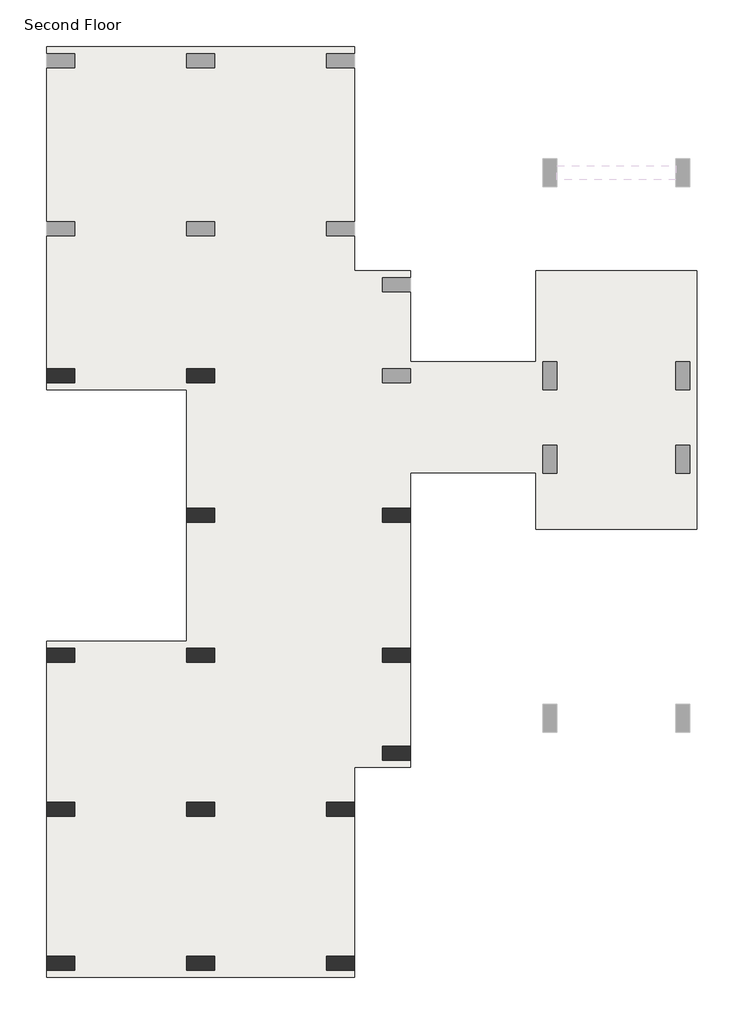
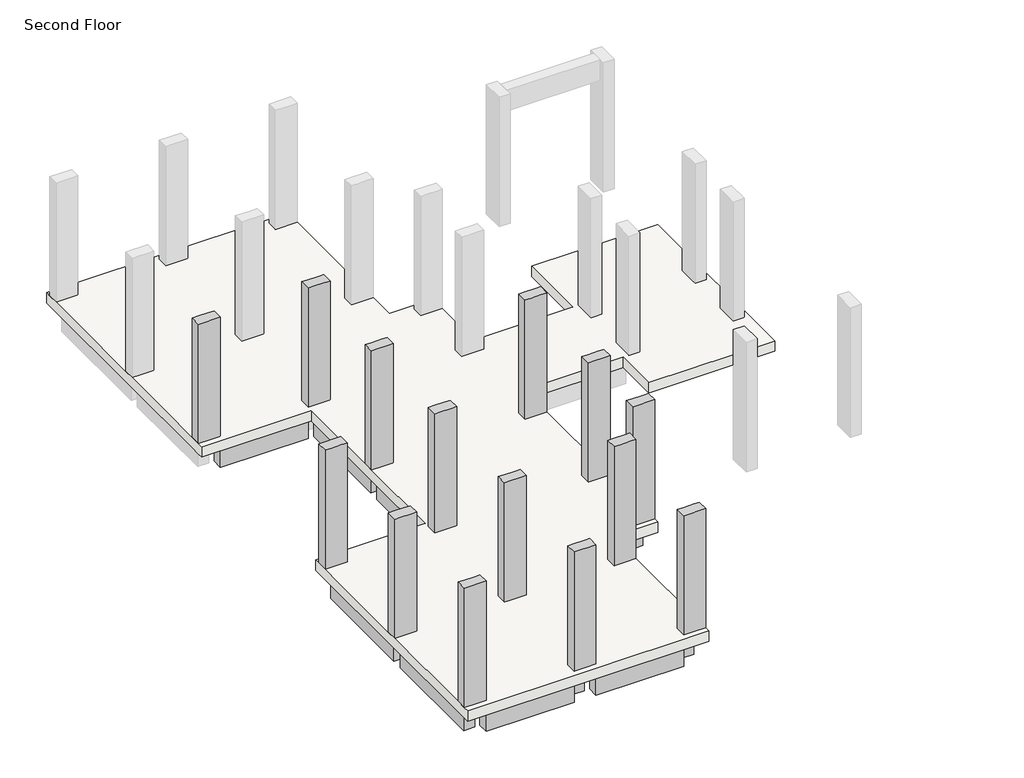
# One storey, part 1 of 2: 21 beams, 15 columns, 1 slab.
"""IFC4 building model written with IfcOpenShell, lengths in millimetres."""

import ifcopenshell
import ifcopenshell.guid

model = None  # the IFC model being written
_history = None  # IfcOwnerHistory: only IFC2X3 demands one
_inside = {}  # id of a spatial element -> (the spatial element, [elements in it])
_under = {}  # id of a project, library or spatial element -> (it, [spatial elements below it])
_declared = {}  # id of a project -> (the project, [libraries it declares])
_typed = {}  # id of a type object -> (the type object, [elements of that type])
_made_of = {}  # id of a material, layer set ... -> (it, [elements and type objects made of it])


def new_model(schema):
    """Start an empty IFC model of exactly this schema.

    Asked for "IFC4X3", IfcOpenShell would pick the latest addendum, in which some entities
    have other attributes; the version numbers below select the first issue.
    IFC2X3 requires an IfcOwnerHistory on every rooted entity: one is made here for all.
    """
    global model, _history
    if schema == "IFC4X3":
        model = ifcopenshell.file(schema_version=(4, 3, 0, 0))
    else:
        model = ifcopenshell.file(schema=schema)
    _inside.clear()
    _under.clear()
    _declared.clear()
    _typed.clear()
    _made_of.clear()
    _history = None
    if model.schema == "IFC2X3":
        org = make("IfcOrganization", Name="unknown")
        user = make(
            "IfcPersonAndOrganization",
            ThePerson=make("IfcPerson", FamilyName="unknown"),
            TheOrganization=org,
        )
        app = make(
            "IfcApplication",
            ApplicationDeveloper=org,
            Version="unknown",
            ApplicationFullName="unknown",
            ApplicationIdentifier="unknown",
        )
        _history = make(
            "IfcOwnerHistory",
            OwningUser=user,
            OwningApplication=app,
            ChangeAction="ADDED",
            CreationDate=0,
        )
    return model


def make(cls, **values):
    """One entity of the class cls with the attributes given. An attribute that is None is left unset."""
    return model.create_entity(
        cls, **{name: value for name, value in values.items() if value is not None}
    )


def rooted(cls, **values):
    """An entity with a GlobalId (a new one), such as an element, a storey or a relation."""
    return make(cls, GlobalId=ifcopenshell.guid.new(), OwnerHistory=_history, **values)


def si_unit(unit_type, name, prefix=None):
    """IfcSIUnit, for example si_unit("LENGTHUNIT", "METRE", prefix="MILLI")."""
    return make("IfcSIUnit", UnitType=unit_type, Prefix=prefix, Name=name)


def assignment(units):
    """IfcUnitAssignment: the units of a project."""
    return None if units is None else make("IfcUnitAssignment", Units=units)


def point(xyz):
    """IfcCartesianPoint."""
    return None if xyz is None else make("IfcCartesianPoint", Coordinates=xyz)


def direction(xyz):
    """IfcDirection."""
    return None if xyz is None else make("IfcDirection", DirectionRatios=xyz)


def frame(location, z_axis=None, x_axis=None):
    """IfcAxis2Placement3D, a coordinate frame: its origin and axes. An axis left out is left unset."""
    return make(
        "IfcAxis2Placement3D",
        Location=point(location),
        Axis=direction(z_axis),
        RefDirection=direction(x_axis),
    )


def origin():
    """The frame at (0, 0, 0) with its axes left unset."""
    return frame((0.0, 0.0, 0.0))


def place(relative_to, where):
    """IfcLocalPlacement: puts the frame where relative to a parent placement (None: the world)."""
    return make(
        "IfcLocalPlacement", PlacementRelTo=relative_to, RelativePlacement=where
    )


def context(
    kind, dimensions, precision=None, world=None, true_north=None, identifier=None
):
    """IfcGeometricRepresentationContext, for example the 3D "Model" context."""
    return make(
        "IfcGeometricRepresentationContext",
        ContextIdentifier=identifier,
        ContextType=kind,
        CoordinateSpaceDimension=dimensions,
        Precision=precision,
        WorldCoordinateSystem=world,
        TrueNorth=true_north,
    )


def project(units=None, contexts=None):
    """IfcProject with its units and contexts."""
    return rooted(
        "IfcProject",
        Name="project",
        RepresentationContexts=contexts,
        UnitsInContext=assignment(units),
    )


def spatial(cls, under=None, at=None, **own):
    """A site, building, storey or space (cls), placed at a placement, below another one or the project."""
    s = rooted(cls, ObjectPlacement=at, **own)
    if under is not None:
        _under.setdefault(under.id(), (under, []))[1].append(s)
    return s


def polyline(points):
    """IfcPolyline through the points."""
    return make("IfcPolyline", Points=[point(p) for p in points])


def outline(outer, holes=None, kind="AREA"):
    """IfcArbitraryClosedProfileDef: a profile drawn as a closed curve; with holes, ...WithVoids."""
    if holes is None:
        return make("IfcArbitraryClosedProfileDef", ProfileType=kind, OuterCurve=outer)
    return make(
        "IfcArbitraryProfileDefWithVoids",
        ProfileType=kind,
        OuterCurve=outer,
        InnerCurves=holes,
    )


def extrude(swept, where, along, depth):
    """IfcExtrudedAreaSolid: the profile swept, set in the frame where, extruded along a direction by depth."""
    return make(
        "IfcExtrudedAreaSolid",
        SweptArea=swept,
        Position=where,
        ExtrudedDirection=direction(along),
        Depth=depth,
    )


def faces_of(points, faces, orient=None, outer=None):
    """IfcFace entities. A face is a list of loops; a loop is a list of indices into points, from 0.

    orient and outer hold one flag for each loop. By default every Orientation is true, the
    first loop of a face is its IfcFaceOuterBound and the others are IfcFaceBound.
    """
    made = []
    for i, loops in enumerate(faces):
        bounds = []
        for j, loop in enumerate(loops):
            is_outer = j == 0 if outer is None else outer[i][j]
            bounds.append(
                make(
                    "IfcFaceOuterBound" if is_outer else "IfcFaceBound",
                    Bound=make("IfcPolyLoop", Polygon=[points[k] for k in loop]),
                    Orientation=True if orient is None else orient[i][j],
                )
            )
        made.append(make("IfcFace", Bounds=bounds))
    return made


def faceted_brep(points, faces, orient=None, outer=None, voids=None):
    """IfcFacetedBrep: a solid bounded by flat faces; with voids (closed shells), ...WithVoids."""
    shared = [point(p) for p in points]
    hull = make("IfcClosedShell", CfsFaces=faces_of(shared, faces, orient, outer))
    if voids is None:
        return make("IfcFacetedBrep", Outer=hull)
    return make(
        "IfcFacetedBrepWithVoids",
        Outer=hull,
        Voids=[
            make(cls, CfsFaces=faces_of(shared, fs, o, b)) for cls, fs, o, b in voids
        ],
    )


def shape(context_of_items, identifier, shape_type, items):
    """IfcShapeRepresentation: the items that make up one representation, for example the "Body"."""
    return make(
        "IfcShapeRepresentation",
        ContextOfItems=context_of_items,
        RepresentationIdentifier=identifier,
        RepresentationType=shape_type,
        Items=items,
    )


def made_of(thing, what):
    """Note that an element or type object is made of a material, layer set ...; save() writes the relation."""
    if what is not None:
        _made_of.setdefault(what.id(), (what, []))[1].append(thing)
    return thing


def element(
    cls,
    number,
    at=None,
    inside=None,
    cuts=None,
    type_object=None,
    material=None,
    context=None,
    identifier="Body",
    shape_type=None,
    held_by="IfcProductDefinitionShape",
    body=None,
    shapes=None,
    **own,
):
    """One element of the class cls, such as IfcWall. Its Tag is "e" and its number.

    at: its placement. inside: the storey or other place that contains it. cuts: it is an
    opening in that element (IfcRelVoidsElement). A single representation is given by context,
    identifier, shape_type and body (its items); several are given by shapes. held_by: the class
    of the entity that holds the representations. save() writes the other relations.
    """
    e = rooted(cls, Tag="e%d" % number, ObjectPlacement=at, **own)
    if body is not None:
        shapes = [shape(context, identifier, shape_type, body)]
    if shapes is not None:
        e.Representation = make(held_by, Representations=shapes)
    if inside is not None:
        _inside.setdefault(inside.id(), (inside, []))[1].append(e)
    if cuts is not None:
        rooted(
            "IfcRelVoidsElement", RelatingBuildingElement=cuts, RelatedOpeningElement=e
        )
    if type_object is not None:
        _typed.setdefault(type_object.id(), (type_object, []))[1].append(e)
    return made_of(e, material)


def aggregate(whole, parts):
    """IfcRelAggregates: a whole, such as a stair, and the parts it consists of."""
    return rooted("IfcRelAggregates", RelatingObject=whole, RelatedObjects=parts)


def save(model, path):
    """Write the relations noted so far, then the file.

    IfcRelAggregates (storeys below a building ...), IfcRelContainedInSpatialStructure (elements
    in a storey), IfcRelDefinesByType, IfcRelAssociatesMaterial and IfcRelDeclares: one each for
    every whole, place, type object, material and project.
    """
    for whole, parts in _under.values():
        aggregate(whole, parts)
    for where, things in _inside.values():
        rooted(
            "IfcRelContainedInSpatialStructure",
            RelatedElements=things,
            RelatingStructure=where,
        )
    for kind, things in _typed.values():
        rooted("IfcRelDefinesByType", RelatedObjects=things, RelatingType=kind)
    for what, things in _made_of.values():
        rooted("IfcRelAssociatesMaterial", RelatedObjects=things, RelatingMaterial=what)
    for by, libraries in _declared.values():
        rooted("IfcRelDeclares", RelatingContext=by, RelatedDefinitions=libraries)
    model.write(path)


model = new_model("IFC4")

# Units and contexts
model_context = context("Model", 3, world=origin())
ifc_project = project(units=[si_unit("LENGTHUNIT", "METRE", prefix="MILLI")], contexts=[model_context])

# Site, building, storey
site = spatial("IfcSite", under=ifc_project)
building = spatial("IfcBuilding", under=site)
storey = spatial("IfcBuildingStorey", under=building, Name="Second Floor", Elevation=3810.0)

# Beams
placement = place(None, origin())
element("IfcBeam", 1, ObjectType="Concrete-Rectangular Beam : 12 x 24", at=placement, inside=storey, context=model_context, shape_type="Brep", body=[
    faceted_brep([(-7905.1554735, 7484.1867088, 3505.2), (-8209.9554735, 7484.1867088, 3505.2), (-8209.9554735, 4740.9867088, 3505.2), (-7905.1554735, 4740.9867088, 3505.2), (-7905.1554735, 5655.3867088, 3505.2), (-7905.1554735, 5960.1867088, 3505.2), (-8209.9554735, 7484.1867088, 2895.6), (-8209.9554735, 4740.9867088, 2895.6), (-7905.1554735, 7484.1867088, 2895.6), (-7905.1554735, 5960.1867088, 2895.6), (-7905.1554735, 5655.3867088, 2895.6), (-7905.1554735, 4740.9867088, 2895.6)], [[[0, 1, 2, 3, 4, 5]], [[1, 6, 7, 2]], [[6, 8, 9, 10, 11, 7]], [[8, 0, 5, 4, 3, 11, 10, 9]], [[6, 1, 0, 8]], [[3, 2, 7, 11]]]),
])
element("IfcBeam", 2, ObjectType="Concrete-Rectangular Beam : 12 x 24", at=placement, inside=storey, context=model_context, shape_type="SweptSolid", body=[
    extrude(outline(polyline([(-8209.9554735, 4436.1867088), (-7905.1554735, 4436.1867088), (-7905.1554735, 1692.9867088), (-8209.9554735, 1692.9867088), (-8209.9554735, 4436.1867088)])), frame((0.0, 0.0, 2895.6), z_axis=(0.0, 0.0, 1.0), x_axis=(1.0, 0.0, 0.0)), (0.0, 0.0, 1.0), 609.6),
])
element("IfcBeam", 3, ObjectType="Concrete-Rectangular Beam : 12 x 24", at=placement, inside=storey, context=model_context, shape_type="SweptSolid", body=[
    extrude(outline(polyline([(-8209.9554735, 1388.1867088), (-7905.1554735, 1388.1867088), (-7905.1554735, -440.6132912), (-8209.9554735, -440.6132912), (-8209.9554735, 1388.1867088)])), frame((0.0, 0.0, 2895.6), z_axis=(0.0, 0.0, 1.0), x_axis=(1.0, 0.0, 0.0)), (0.0, 0.0, 1.0), 609.6),
])
element("IfcBeam", 4, ObjectType="Concrete-Rectangular Beam : 12 x 24", at=placement, inside=storey, context=model_context, shape_type="Brep", body=[
    faceted_brep([(-9429.1554735, -440.6132912, 3505.2), (-9429.1554735, -745.4132912, 3505.2), (-9124.3554735, -745.4132912, 3505.2), (-8362.3554735, -745.4132912, 3505.2), (-8362.3554735, -440.6132912, 3505.2), (-9429.1554735, -440.6132912, 2895.6), (-8362.3554735, -440.6132912, 2895.6), (-9429.1554735, -745.4132912, 2895.6), (-8362.3554735, -745.4132912, 2895.6), (-9124.3554735, -745.4132912, 2895.6)], [[[0, 1, 2, 3, 4]], [[5, 0, 4, 6]], [[7, 5, 6, 8, 9]], [[1, 7, 9, 8, 3, 2]], [[4, 3, 8, 6]], [[1, 0, 5, 7]]]),
])
element("IfcBeam", 5, ObjectType="Concrete-Rectangular Beam : 12 x 24", at=placement, inside=storey, context=model_context, shape_type="SweptSolid", body=[
    extrude(outline(polyline([(-9429.1554735, -745.4132912), (-9124.3554735, -745.4132912), (-9124.3554735, -1659.8132912), (-9429.1554735, -1659.8132912), (-9429.1554735, -745.4132912)])), frame((0.0, 0.0, 2895.6), z_axis=(0.0, 0.0, 1.0), x_axis=(1.0, 0.0, 0.0)), (0.0, 0.0, 1.0), 609.6),
])
element("IfcBeam", 6, ObjectType="Concrete-Rectangular Beam : 12 x 24", at=placement, inside=storey, context=model_context, shape_type="SweptSolid", body=[
    extrude(outline(polyline([(-9429.1554735, -1964.6132912), (-9124.3554735, -1964.6132912), (-9124.3554735, -5012.6132912), (-9429.1554735, -5012.6132912), (-9429.1554735, -1964.6132912)])), frame((0.0, 0.0, 2895.6), z_axis=(0.0, 0.0, 1.0), x_axis=(1.0, 0.0, 0.0)), (0.0, 0.0, 1.0), 609.6),
])
element("IfcBeam", 7, ObjectType="Concrete-Rectangular Beam : 12 x 24", at=placement, inside=storey, context=model_context, shape_type="SweptSolid", body=[
    extrude(outline(polyline([(-12019.9554735, -5317.4132912), (-12019.9554735, -5012.6132912), (-9581.5554735, -5012.6132912), (-9581.5554735, -5317.4132912), (-12019.9554735, -5317.4132912)])), frame((0.0, 0.0, 2895.6), z_axis=(0.0, 0.0, 1.0), x_axis=(1.0, 0.0, 0.0)), (0.0, 0.0, 1.0), 609.6),
])
element("IfcBeam", 8, ObjectType="Concrete-Rectangular Beam : 12 x 24", at=placement, inside=storey, context=model_context, shape_type="SweptSolid", body=[
    extrude(outline(polyline([(-12629.5554735, -5012.6132912), (-12629.5554735, -5317.4132912), (-15067.9554735, -5317.4132912), (-15067.9554735, -5012.6132912), (-12629.5554735, -5012.6132912)])), frame((0.0, 0.0, 2895.6), z_axis=(0.0, 0.0, 1.0), x_axis=(1.0, 0.0, 0.0)), (0.0, 0.0, 1.0), 609.6),
])
element("IfcBeam", 9, ObjectType="Concrete-Rectangular Beam : 12 x 24", at=placement, inside=storey, context=model_context, shape_type="SweptSolid", body=[
    extrude(outline(polyline([(-15220.3554735, -5012.6132912), (-15525.1554735, -5012.6132912), (-15525.1554735, -1964.6132912), (-15220.3554735, -1964.6132912), (-15220.3554735, -5012.6132912)])), frame((0.0, 0.0, 2895.6), z_axis=(0.0, 0.0, 1.0), x_axis=(1.0, 0.0, 0.0)), (0.0, 0.0, 1.0), 609.6),
])
element("IfcBeam", 10, ObjectType="Concrete-Rectangular Beam : 12 x 24", at=placement, inside=storey, context=model_context, shape_type="SweptSolid", body=[
    extrude(outline(polyline([(-15220.3554735, -1659.8132912), (-15525.1554735, -1659.8132912), (-15525.1554735, 1388.1867088), (-15220.3554735, 1388.1867088), (-15220.3554735, -1659.8132912)])), frame((0.0, 0.0, 2895.6), z_axis=(0.0, 0.0, 1.0), x_axis=(1.0, 0.0, 0.0)), (0.0, 0.0, 1.0), 609.6),
])
element("IfcBeam", 11, ObjectType="Concrete-Rectangular Beam : 12 x 24", at=placement, inside=storey, context=model_context, shape_type="SweptSolid", body=[
    extrude(outline(polyline([(-12477.1554735, 7484.1867088), (-12172.3554735, 7484.1867088), (-12172.3554735, 4740.9867088), (-12477.1554735, 4740.9867088), (-12477.1554735, 7484.1867088)])), frame((0.0, 0.0, 2895.6), z_axis=(0.0, 0.0, 1.0), x_axis=(1.0, 0.0, 0.0)), (0.0, 0.0, 1.0), 609.6),
])
element("IfcBeam", 12, ObjectType="Concrete-Rectangular Beam : 12 x 24", at=placement, inside=storey, context=model_context, shape_type="SweptSolid", body=[
    extrude(outline(polyline([(-12477.1554735, 4436.1867088), (-12172.3554735, 4436.1867088), (-12172.3554735, 1692.9867088), (-12477.1554735, 1692.9867088), (-12477.1554735, 4436.1867088)])), frame((0.0, 0.0, 2895.6), z_axis=(0.0, 0.0, 1.0), x_axis=(1.0, 0.0, 0.0)), (0.0, 0.0, 1.0), 609.6),
])
element("IfcBeam", 13, ObjectType="Concrete-Rectangular Beam : 12 x 24", at=placement, inside=storey, context=model_context, shape_type="SweptSolid", body=[
    extrude(outline(polyline([(-12477.1554735, 1388.1867088), (-12172.3554735, 1388.1867088), (-12172.3554735, -1659.8132912), (-12477.1554735, -1659.8132912), (-12477.1554735, 1388.1867088)])), frame((0.0, 0.0, 2895.6), z_axis=(0.0, 0.0, 1.0), x_axis=(1.0, 0.0, 0.0)), (0.0, 0.0, 1.0), 609.6),
])
element("IfcBeam", 14, ObjectType="Concrete-Rectangular Beam : 12 x 24", at=placement, inside=storey, context=model_context, shape_type="SweptSolid", body=[
    extrude(outline(polyline([(-12172.3554735, -5012.6132912), (-12477.1554735, -5012.6132912), (-12477.1554735, -1964.6132912), (-12172.3554735, -1964.6132912), (-12172.3554735, -5012.6132912)])), frame((0.0, 0.0, 2895.6), z_axis=(0.0, 0.0, 1.0), x_axis=(1.0, 0.0, 0.0)), (0.0, 0.0, 1.0), 609.6),
])
element("IfcBeam", 15, ObjectType="Concrete-Rectangular Beam : 12 x 24", at=placement, inside=storey, context=model_context, shape_type="SweptSolid", body=[
    extrude(outline(polyline([(-15067.9554735, 7484.1867088), (-15067.9554735, 7788.9867088), (-12629.5554735, 7788.9867088), (-12629.5554735, 7484.1867088), (-15067.9554735, 7484.1867088)])), frame((0.0, 0.0, 2895.6), z_axis=(0.0, 0.0, 1.0), x_axis=(1.0, 0.0, 0.0)), (0.0, 0.0, 1.0), 609.6),
])
element("IfcBeam", 16, ObjectType="Concrete-Rectangular Beam : 12 x 24", at=placement, inside=storey, context=model_context, shape_type="SweptSolid", body=[
    extrude(outline(polyline([(-12019.9554735, 1388.1867088), (-12019.9554735, 1692.9867088), (-8362.3554735, 1692.9867088), (-8362.3554735, 1388.1867088), (-12019.9554735, 1388.1867088)])), frame((0.0, 0.0, 2895.6), z_axis=(0.0, 0.0, 1.0), x_axis=(1.0, 0.0, 0.0)), (0.0, 0.0, 1.0), 609.6),
])
element("IfcBeam", 17, ObjectType="Concrete-Rectangular Beam : 12 x 24", at=placement, inside=storey, context=model_context, shape_type="SweptSolid", body=[
    extrude(outline(polyline([(-12629.5554735, -1659.8132912), (-12629.5554735, -1964.6132912), (-15067.9554735, -1964.6132912), (-15067.9554735, -1659.8132912), (-12629.5554735, -1659.8132912)])), frame((0.0, 0.0, 2895.6), z_axis=(0.0, 0.0, 1.0), x_axis=(1.0, 0.0, 0.0)), (0.0, 0.0, 1.0), 609.6),
])
element("IfcBeam", 18, ObjectType="Concrete-Rectangular Beam : 12 x 24", at=placement, inside=storey, context=model_context, shape_type="SweptSolid", body=[
    extrude(outline(polyline([(-12629.5554735, 1692.9867088), (-12629.5554735, 1388.1867088), (-15067.9554735, 1388.1867088), (-15067.9554735, 1692.9867088), (-12629.5554735, 1692.9867088)])), frame((0.0, 0.0, 2895.6), z_axis=(0.0, 0.0, 1.0), x_axis=(1.0, 0.0, 0.0)), (0.0, 0.0, 1.0), 609.6),
])
element("IfcBeam", 19, ObjectType="Concrete-Rectangular Beam : 12 x 24", at=placement, inside=storey, context=model_context, shape_type="SweptSolid", body=[
    extrude(outline(polyline([(-12019.9554735, -1964.6132912), (-12019.9554735, -1659.8132912), (-9581.5554735, -1659.8132912), (-9581.5554735, -1964.6132912), (-12019.9554735, -1964.6132912)])), frame((0.0, 0.0, 2895.6), z_axis=(0.0, 0.0, 1.0), x_axis=(1.0, 0.0, 0.0)), (0.0, 0.0, 1.0), 609.6),
])
element("IfcBeam", 20, ObjectType="Concrete-Rectangular Beam : 12 x 24", at=placement, inside=storey, context=model_context, shape_type="SweptSolid", body=[
    extrude(outline(polyline([(-8362.3554735, 7788.9867088), (-8362.3554735, 7484.1867088), (-12019.9554735, 7484.1867088), (-12019.9554735, 7788.9867088), (-8362.3554735, 7788.9867088)])), frame((0.0, 0.0, 2895.6), z_axis=(0.0, 0.0, 1.0), x_axis=(1.0, 0.0, 0.0)), (0.0, 0.0, 1.0), 609.6),
])
element("IfcBeam", 21, ObjectType="Concrete-Rectangular Beam : 12 x 24", at=placement, inside=storey, context=model_context, shape_type="SweptSolid", body=[
    extrude(outline(polyline([(-12019.9554735, 4436.1867088), (-12019.9554735, 4740.9867088), (-8362.3554735, 4740.9867088), (-8362.3554735, 4436.1867088), (-12019.9554735, 4436.1867088)])), frame((0.0, 0.0, 2895.6), z_axis=(0.0, 0.0, 1.0), x_axis=(1.0, 0.0, 0.0)), (0.0, 0.0, 1.0), 609.6),
])

# Columns
element("IfcColumn", 22, ObjectType="Concrete-Rectangular-Column : 12 x 24", at=placement, inside=storey, context=model_context, shape_type="Brep", body=[
    faceted_brep([(-15677.5554735, 7788.9867088, 3810.0), (-15067.9554735, 7788.9867088, 3810.0), (-15067.9554735, 7484.1867088, 3810.0), (-15677.5554735, 7484.1867088, 3810.0), (-15677.5554735, 7788.9867088, 7315.2), (-15525.1554735, 7788.9867088, 7315.2), (-15220.3554735, 7788.9867088, 7315.2), (-15067.9554735, 7788.9867088, 7315.2), (-15067.9554735, 7788.9867088, 6705.6), (-15067.9554735, 7484.1867088, 7315.2), (-15067.9554735, 7484.1867088, 6705.6), (-15677.5554735, 7484.1867088, 7315.2)], [[[0, 1, 2, 3]], [[4, 5, 6, 7, 8, 1, 0]], [[7, 9, 10, 2, 1, 8]], [[9, 11, 3, 2, 10]], [[11, 4, 0, 3]], [[4, 11, 9, 7, 6, 5]]]),
])
element("IfcColumn", 23, ObjectType="Concrete-Rectangular-Column : 12 x 24", at=placement, inside=storey, context=model_context, shape_type="Brep", body=[
    faceted_brep([(-12629.5554735, 7788.9867088, 3810.0), (-12019.9554735, 7788.9867088, 3810.0), (-12019.9554735, 7484.1867088, 3810.0), (-12629.5554735, 7484.1867088, 3810.0), (-12629.5554735, 7788.9867088, 7315.2), (-12477.1554735, 7788.9867088, 7315.2), (-12172.3554735, 7788.9867088, 7315.2), (-12019.9554735, 7788.9867088, 7315.2), (-12019.9554735, 7788.9867088, 6705.6), (-12629.5554735, 7788.9867088, 6705.6), (-12019.9554735, 7484.1867088, 7315.2), (-12019.9554735, 7484.1867088, 6705.6), (-12172.3554735, 7484.1867088, 7315.2), (-12477.1554735, 7484.1867088, 7315.2), (-12629.5554735, 7484.1867088, 7315.2), (-12629.5554735, 7484.1867088, 6705.6)], [[[0, 1, 2, 3]], [[4, 5, 6, 7, 8, 1, 0, 9]], [[7, 10, 11, 2, 1, 8]], [[10, 12, 13, 14, 15, 3, 2, 11]], [[14, 4, 9, 0, 3, 15]], [[4, 14, 13, 12, 10, 7, 6, 5]]]),
])
element("IfcColumn", 24, ObjectType="Concrete-Rectangular-Column : 12 x 24", at=placement, inside=storey, context=model_context, shape_type="Brep", body=[
    faceted_brep([(-12629.5554735, 4740.9867088, 3810.0), (-12019.9554735, 4740.9867088, 3810.0), (-12019.9554735, 4436.1867088, 3810.0), (-12629.5554735, 4436.1867088, 3810.0), (-12629.5554735, 4740.9867088, 7315.2), (-12477.1554735, 4740.9867088, 7315.2), (-12172.3554735, 4740.9867088, 7315.2), (-12019.9554735, 4740.9867088, 7315.2), (-12019.9554735, 4740.9867088, 6705.6), (-12019.9554735, 4436.1867088, 7315.2), (-12019.9554735, 4436.1867088, 6705.6), (-12172.3554735, 4436.1867088, 7315.2), (-12477.1554735, 4436.1867088, 7315.2), (-12629.5554735, 4436.1867088, 7315.2)], [[[0, 1, 2, 3]], [[4, 5, 6, 7, 8, 1, 0]], [[7, 9, 10, 2, 1, 8]], [[9, 11, 12, 13, 3, 2, 10]], [[13, 4, 0, 3]], [[4, 13, 12, 11, 9, 7, 6, 5]]]),
])
element("IfcColumn", 25, ObjectType="Concrete-Rectangular-Column : 12 x 24", at=placement, inside=storey, context=model_context, shape_type="Brep", body=[
    faceted_brep([(-12629.5554735, 1692.9867088, 3810.0), (-12019.9554735, 1692.9867088, 3810.0), (-12019.9554735, 1388.1867088, 3810.0), (-12629.5554735, 1388.1867088, 3810.0), (-12629.5554735, 1692.9867088, 7315.2), (-12477.1554735, 1692.9867088, 7315.2), (-12172.3554735, 1692.9867088, 7315.2), (-12019.9554735, 1692.9867088, 7315.2), (-12019.9554735, 1692.9867088, 6705.6), (-12629.5554735, 1692.9867088, 6705.6), (-12019.9554735, 1388.1867088, 7315.2), (-12019.9554735, 1388.1867088, 6705.6), (-12172.3554735, 1388.1867088, 7315.2), (-12477.1554735, 1388.1867088, 7315.2), (-12629.5554735, 1388.1867088, 7315.2), (-12629.5554735, 1388.1867088, 6705.6)], [[[0, 1, 2, 3]], [[4, 5, 6, 7, 8, 1, 0, 9]], [[7, 10, 11, 2, 1, 8]], [[10, 12, 13, 14, 15, 3, 2, 11]], [[14, 4, 9, 0, 3, 15]], [[4, 14, 13, 12, 10, 7, 6, 5]]]),
])
element("IfcColumn", 26, ObjectType="Concrete-Rectangular-Column : 12 x 24", at=placement, inside=storey, context=model_context, shape_type="Brep", body=[
    faceted_brep([(-12629.5554735, -1659.8132912, 3810.0), (-12019.9554735, -1659.8132912, 3810.0), (-12019.9554735, -1964.6132912, 3810.0), (-12629.5554735, -1964.6132912, 3810.0), (-12629.5554735, -1659.8132912, 7315.2), (-12477.1554735, -1659.8132912, 7315.2), (-12172.3554735, -1659.8132912, 7315.2), (-12019.9554735, -1659.8132912, 7315.2), (-12019.9554735, -1659.8132912, 6705.6), (-12629.5554735, -1659.8132912, 6705.6), (-12019.9554735, -1964.6132912, 7315.2), (-12019.9554735, -1964.6132912, 6705.6), (-12172.3554735, -1964.6132912, 7315.2), (-12477.1554735, -1964.6132912, 7315.2), (-12629.5554735, -1964.6132912, 7315.2), (-12629.5554735, -1964.6132912, 6705.6)], [[[0, 1, 2, 3]], [[4, 5, 6, 7, 8, 1, 0, 9]], [[7, 10, 11, 2, 1, 8]], [[10, 12, 13, 14, 15, 3, 2, 11]], [[14, 4, 9, 0, 3, 15]], [[4, 14, 13, 12, 10, 7, 6, 5]]]),
])
element("IfcColumn", 27, ObjectType="Concrete-Rectangular-Column : 12 x 24", at=placement, inside=storey, context=model_context, shape_type="Brep", body=[
    faceted_brep([(-12629.5554735, -5012.6132912, 3810.0), (-12019.9554735, -5012.6132912, 3810.0), (-12019.9554735, -5317.4132912, 3810.0), (-12629.5554735, -5317.4132912, 3810.0), (-12629.5554735, -5012.6132912, 7315.2), (-12477.1554735, -5012.6132912, 7315.2), (-12172.3554735, -5012.6132912, 7315.2), (-12019.9554735, -5012.6132912, 7315.2), (-12019.9554735, -5012.6132912, 6705.6), (-12629.5554735, -5012.6132912, 6705.6), (-12019.9554735, -5317.4132912, 7315.2), (-12019.9554735, -5317.4132912, 6705.6), (-12629.5554735, -5317.4132912, 7315.2), (-12629.5554735, -5317.4132912, 6705.6)], [[[0, 1, 2, 3]], [[4, 5, 6, 7, 8, 1, 0, 9]], [[7, 10, 11, 2, 1, 8]], [[10, 12, 13, 3, 2, 11]], [[12, 4, 9, 0, 3, 13]], [[4, 12, 10, 7, 6, 5]]]),
])
element("IfcColumn", 28, ObjectType="Concrete-Rectangular-Column : 12 x 24", at=placement, inside=storey, context=model_context, shape_type="Brep", body=[
    faceted_brep([(-15677.5554735, -1659.8132912, 3810.0), (-15067.9554735, -1659.8132912, 3810.0), (-15067.9554735, -1964.6132912, 3810.0), (-15677.5554735, -1964.6132912, 3810.0), (-15677.5554735, -1659.8132912, 7315.2), (-15525.1554735, -1659.8132912, 7315.2), (-15220.3554735, -1659.8132912, 7315.2), (-15067.9554735, -1659.8132912, 7315.2), (-15067.9554735, -1659.8132912, 6705.6), (-15067.9554735, -1964.6132912, 7315.2), (-15067.9554735, -1964.6132912, 6705.6), (-15220.3554735, -1964.6132912, 7315.2), (-15525.1554735, -1964.6132912, 7315.2), (-15677.5554735, -1964.6132912, 7315.2)], [[[0, 1, 2, 3]], [[4, 5, 6, 7, 8, 1, 0]], [[7, 9, 10, 2, 1, 8]], [[9, 11, 12, 13, 3, 2, 10]], [[13, 4, 0, 3]], [[4, 13, 12, 11, 9, 7, 6, 5]]]),
])
element("IfcColumn", 29, ObjectType="Concrete-Rectangular-Column : 12 x 24", at=placement, inside=storey, context=model_context, shape_type="Brep", body=[
    faceted_brep([(-15677.5554735, -5012.6132912, 3810.0), (-15067.9554735, -5012.6132912, 3810.0), (-15067.9554735, -5317.4132912, 3810.0), (-15677.5554735, -5317.4132912, 3810.0), (-15677.5554735, -5012.6132912, 7315.2), (-15525.1554735, -5012.6132912, 7315.2), (-15220.3554735, -5012.6132912, 7315.2), (-15067.9554735, -5012.6132912, 7315.2), (-15067.9554735, -5012.6132912, 6705.6), (-15067.9554735, -5317.4132912, 7315.2), (-15067.9554735, -5317.4132912, 6705.6), (-15677.5554735, -5317.4132912, 7315.2)], [[[0, 1, 2, 3]], [[4, 5, 6, 7, 8, 1, 0]], [[7, 9, 10, 2, 1, 8]], [[9, 11, 3, 2, 10]], [[11, 4, 0, 3]], [[4, 11, 9, 7, 6, 5]]]),
])
element("IfcColumn", 30, ObjectType="Concrete-Rectangular-Column : 12 x 24", at=placement, inside=storey, context=model_context, shape_type="Brep", body=[
    faceted_brep([(-15677.5554735, 1692.9867088, 3810.0), (-15067.9554735, 1692.9867088, 3810.0), (-15067.9554735, 1388.1867088, 3810.0), (-15677.5554735, 1388.1867088, 3810.0), (-15677.5554735, 1692.9867088, 7315.2), (-15067.9554735, 1692.9867088, 7315.2), (-15067.9554735, 1692.9867088, 6705.6), (-15067.9554735, 1388.1867088, 7315.2), (-15067.9554735, 1388.1867088, 6705.6), (-15220.3554735, 1388.1867088, 7315.2), (-15525.1554735, 1388.1867088, 7315.2), (-15677.5554735, 1388.1867088, 7315.2)], [[[0, 1, 2, 3]], [[4, 5, 6, 1, 0]], [[5, 7, 8, 2, 1, 6]], [[7, 9, 10, 11, 3, 2, 8]], [[11, 4, 0, 3]], [[4, 11, 10, 9, 7, 5]]]),
])
element("IfcColumn", 31, ObjectType="Concrete-Rectangular-Column : 12 x 24", at=placement, inside=storey, context=model_context, shape_type="Brep", body=[
    faceted_brep([(-8362.3554735, 4740.9867088, 3810.0), (-7752.7554735, 4740.9867088, 3810.0), (-7752.7554735, 4436.1867088, 3810.0), (-8362.3554735, 4436.1867088, 3810.0), (-8362.3554735, 4740.9867088, 7315.2), (-8209.9554735, 4740.9867088, 7315.2), (-7905.1554735, 4740.9867088, 7315.2), (-7752.7554735, 4740.9867088, 7315.2), (-8362.3554735, 4740.9867088, 6705.6), (-7752.7554735, 4436.1867088, 7315.2), (-7905.1554735, 4436.1867088, 7315.2), (-8209.9554735, 4436.1867088, 7315.2), (-8362.3554735, 4436.1867088, 7315.2), (-8362.3554735, 4436.1867088, 6705.6)], [[[0, 1, 2, 3]], [[4, 5, 6, 7, 1, 0, 8]], [[7, 9, 2, 1]], [[9, 10, 11, 12, 13, 3, 2]], [[12, 4, 8, 0, 3, 13]], [[4, 12, 11, 10, 9, 7, 6, 5]]]),
])
element("IfcColumn", 32, ObjectType="Concrete-Rectangular-Column : 12 x 24", at=placement, inside=storey, context=model_context, shape_type="Brep", body=[
    faceted_brep([(-8362.3554735, 1692.9867088, 3810.0), (-7752.7554735, 1692.9867088, 3810.0), (-7752.7554735, 1388.1867088, 3810.0), (-8362.3554735, 1388.1867088, 3810.0), (-8362.3554735, 1692.9867088, 7315.2), (-8209.9554735, 1692.9867088, 7315.2), (-7905.1554735, 1692.9867088, 7315.2), (-7752.7554735, 1692.9867088, 7315.2), (-8362.3554735, 1692.9867088, 6705.6), (-7752.7554735, 1388.1867088, 7315.2), (-7905.1554735, 1388.1867088, 7315.2), (-8209.9554735, 1388.1867088, 7315.2), (-8362.3554735, 1388.1867088, 7315.2), (-8362.3554735, 1388.1867088, 6705.6)], [[[0, 1, 2, 3]], [[4, 5, 6, 7, 1, 0, 8]], [[7, 9, 2, 1]], [[9, 10, 11, 12, 13, 3, 2]], [[12, 4, 8, 0, 3, 13]], [[4, 12, 11, 10, 9, 7, 6, 5]]]),
])
element("IfcColumn", 33, ObjectType="Concrete-Rectangular-Column : 12 x 24", at=placement, inside=storey, context=model_context, shape_type="Brep", body=[
    faceted_brep([(-9581.5554735, -1659.8132912, 3810.0), (-8971.9554735, -1659.8132912, 3810.0), (-8971.9554735, -1964.6132912, 3810.0), (-9581.5554735, -1964.6132912, 3810.0), (-9581.5554735, -1659.8132912, 7315.2), (-9429.1554735, -1659.8132912, 7315.2), (-9124.3554735, -1659.8132912, 7315.2), (-8971.9554735, -1659.8132912, 7315.2), (-9581.5554735, -1659.8132912, 6705.6), (-8971.9554735, -1964.6132912, 7315.2), (-9124.3554735, -1964.6132912, 7315.2), (-9429.1554735, -1964.6132912, 7315.2), (-9581.5554735, -1964.6132912, 7315.2), (-9581.5554735, -1964.6132912, 6705.6)], [[[0, 1, 2, 3]], [[4, 5, 6, 7, 1, 0, 8]], [[7, 9, 2, 1]], [[9, 10, 11, 12, 13, 3, 2]], [[12, 4, 8, 0, 3, 13]], [[4, 12, 11, 10, 9, 7, 6, 5]]]),
])
element("IfcColumn", 34, ObjectType="Concrete-Rectangular-Column : 12 x 24", at=placement, inside=storey, context=model_context, shape_type="Brep", body=[
    faceted_brep([(-9581.5554735, -5012.6132912, 3810.0), (-8971.9554735, -5012.6132912, 3810.0), (-8971.9554735, -5317.4132912, 3810.0), (-9581.5554735, -5317.4132912, 3810.0), (-9581.5554735, -5012.6132912, 7315.2), (-9429.1554735, -5012.6132912, 7315.2), (-9124.3554735, -5012.6132912, 7315.2), (-8971.9554735, -5012.6132912, 7315.2), (-9581.5554735, -5012.6132912, 6705.6), (-8971.9554735, -5317.4132912, 7315.2), (-9581.5554735, -5317.4132912, 7315.2), (-9581.5554735, -5317.4132912, 6705.6)], [[[0, 1, 2, 3]], [[4, 5, 6, 7, 1, 0, 8]], [[7, 9, 2, 1]], [[9, 10, 11, 3, 2]], [[10, 4, 8, 0, 3, 11]], [[4, 10, 9, 7, 6, 5]]]),
])
element("IfcColumn", 35, ObjectType="Concrete-Rectangular-Column : 12 x 24", at=placement, inside=storey, context=model_context, shape_type="Brep", body=[
    faceted_brep([(-8362.3554735, -440.6132912, 3810.0), (-7752.7554735, -440.6132912, 3810.0), (-7752.7554735, -745.4132912, 3810.0), (-8362.3554735, -745.4132912, 3810.0), (-8362.3554735, -440.6132912, 7315.2), (-8209.9554735, -440.6132912, 7315.2), (-7905.1554735, -440.6132912, 7315.2), (-7752.7554735, -440.6132912, 7315.2), (-8362.3554735, -440.6132912, 6705.6), (-7752.7554735, -745.4132912, 7315.2), (-8362.3554735, -745.4132912, 7315.2), (-8362.3554735, -745.4132912, 6705.6)], [[[0, 1, 2, 3]], [[4, 5, 6, 7, 1, 0, 8]], [[7, 9, 2, 1]], [[9, 10, 11, 3, 2]], [[10, 4, 8, 0, 3, 11]], [[4, 10, 9, 7, 6, 5]]]),
])
element("IfcColumn", 36, ObjectType="Concrete-Rectangular-Column : 12 x 24", at=placement, inside=storey, context=model_context, shape_type="Brep", body=[
    faceted_brep([(-12629.5554735, 7788.9867088, 3810.0), (-12019.9554735, 7788.9867088, 3810.0), (-12019.9554735, 7484.1867088, 3810.0), (-12629.5554735, 7484.1867088, 3810.0), (-12629.5554735, 7788.9867088, 7315.2), (-12477.1554735, 7788.9867088, 7315.2), (-12172.3554735, 7788.9867088, 7315.2), (-12019.9554735, 7788.9867088, 7315.2), (-12019.9554735, 7788.9867088, 6705.6), (-12629.5554735, 7788.9867088, 6705.6), (-12019.9554735, 7484.1867088, 7315.2), (-12019.9554735, 7484.1867088, 6705.6), (-12172.3554735, 7484.1867088, 7315.2), (-12477.1554735, 7484.1867088, 7315.2), (-12629.5554735, 7484.1867088, 7315.2), (-12629.5554735, 7484.1867088, 6705.6)], [[[0, 1, 2, 3]], [[4, 5, 6, 7, 8, 1, 0, 9]], [[7, 10, 11, 2, 1, 8]], [[10, 12, 13, 14, 15, 3, 2, 11]], [[14, 4, 9, 0, 3, 15]], [[4, 14, 13, 12, 10, 7, 6, 5]]]),
])

# Slab
element("IfcSlab", 37, ObjectType="Generic - 12\"", at=placement, inside=storey, context=model_context, shape_type="Brep", body=[
    faceted_brep([(-8971.9554735, 14799.3867088, 3505.2), (-8971.9554735, 14646.9867088, 3505.2), (-8971.9554735, 14342.1867088, 3505.2), (-8971.9554735, 10989.3867088, 3505.2), (-8971.9554735, 10684.5867088, 3505.2), (-8971.9554735, 9922.5867088, 3505.2), (-7752.7554735, 9922.5867088, 3505.2), (-7752.7554735, 9770.1867088, 3505.2), (-7752.7554735, 9465.3867088, 3505.2), (-7752.7554735, 7941.3867088, 3505.2), (-5009.5554735, 7941.3867088, 3505.2), (-5009.5554735, 9922.5867088, 3505.2), (-1504.3554735, 9922.5867088, 3505.2), (-1504.3554735, 4283.7867088, 3505.2), (-5009.5554735, 4283.7867088, 3505.2), (-5009.5554735, 5516.5265407, 3505.2), (-7752.7554735, 5516.5265407, 3505.2), (-7752.7554735, 4740.9867088, 3505.2), (-7752.7554735, 4436.1867088, 3505.2), (-7752.7554735, 1692.9867088, 3505.2), (-7752.7554735, 1388.1867088, 3505.2), (-7752.7554735, -440.6132912, 3505.2), (-7752.7554735, -745.4132912, 3505.2), (-7752.7554735, -897.8132912, 3505.2), (-8971.9554735, -897.8132912, 3505.2), (-8971.9554735, -1659.8132912, 3505.2), (-8971.9554735, -1964.6132912, 3505.2), (-8971.9554735, -5012.6132912, 3505.2), (-8971.9554735, -5317.4132912, 3505.2), (-8971.9554735, -5469.8132912, 3505.2), (-15677.5554735, -5469.8132912, 3505.2), (-15677.5554735, -5317.4132912, 3505.2), (-15677.5554735, -5012.6132912, 3505.2), (-15677.5554735, -1964.6132912, 3505.2), (-15677.5554735, -1659.8132912, 3505.2), (-15677.5554735, 1388.1867088, 3505.2), (-15677.5554735, 1692.9867088, 3505.2), (-15677.5554735, 1845.3867088, 3505.2), (-12629.5554735, 1845.3867088, 3505.2), (-12629.5554735, 4436.1867088, 3505.2), (-12629.5554735, 4740.9867088, 3505.2), (-12629.5554735, 7331.7867088, 3505.2), (-15677.5554735, 7331.7867088, 3505.2), (-15677.5554735, 7484.1867088, 3505.2), (-15677.5554735, 7788.9867088, 3505.2), (-15677.5554735, 10684.5867088, 3505.2), (-15677.5554735, 10989.3867088, 3505.2), (-15677.5554735, 14342.1867088, 3505.2), (-15677.5554735, 14646.9867088, 3505.2), (-15677.5554735, 14799.3867088, 3505.2), (-8971.9554735, 14799.3867088, 3810.0), (-15677.5554735, 14799.3867088, 3810.0), (-15677.5554735, 14646.9867088, 3810.0), (-15677.5554735, 14342.1867088, 3810.0), (-15677.5554735, 10989.3867088, 3810.0), (-15677.5554735, 10684.5867088, 3810.0), (-15677.5554735, 7788.9867088, 3810.0), (-15677.5554735, 7484.1867088, 3810.0), (-15677.5554735, 7331.7867088, 3810.0), (-12629.5554735, 7331.7867088, 3810.0), (-12629.5554735, 4740.9867088, 3810.0), (-12629.5554735, 4436.1867088, 3810.0), (-12629.5554735, 1845.3867088, 3810.0), (-15677.5554735, 1845.3867088, 3810.0), (-15677.5554735, 1692.9867088, 3810.0), (-15677.5554735, 1388.1867088, 3810.0), (-15677.5554735, -1659.8132912, 3810.0), (-15677.5554735, -1964.6132912, 3810.0), (-15677.5554735, -5012.6132912, 3810.0), (-15677.5554735, -5317.4132912, 3810.0), (-15677.5554735, -5469.8132912, 3810.0), (-8971.9554735, -5469.8132912, 3810.0), (-8971.9554735, -5317.4132912, 3810.0), (-8971.9554735, -5012.6132912, 3810.0), (-8971.9554735, -1964.6132912, 3810.0), (-8971.9554735, -1659.8132912, 3810.0), (-8971.9554735, -897.8132912, 3810.0), (-7752.7554735, -897.8132912, 3810.0), (-7752.7554735, -745.4132912, 3810.0), (-7752.7554735, -440.6132912, 3810.0), (-7752.7554735, 1388.1867088, 3810.0), (-7752.7554735, 1692.9867088, 3810.0), (-7752.7554735, 4436.1867088, 3810.0), (-7752.7554735, 4740.9867088, 3810.0), (-7752.7554735, 5516.5265407, 3810.0), (-5009.5554735, 5516.5265407, 3810.0), (-5009.5554735, 4283.7867088, 3810.0), (-1504.3554735, 4283.7867088, 3810.0), (-1504.3554735, 9922.5867088, 3810.0), (-5009.5554735, 9922.5867088, 3810.0), (-5009.5554735, 7941.3867088, 3810.0), (-7752.7554735, 7941.3867088, 3810.0), (-7752.7554735, 9465.3867088, 3810.0), (-7752.7554735, 9770.1867088, 3810.0), (-7752.7554735, 9922.5867088, 3810.0), (-8971.9554735, 9922.5867088, 3810.0), (-8971.9554735, 10684.5867088, 3810.0), (-8971.9554735, 10989.3867088, 3810.0), (-8971.9554735, 14342.1867088, 3810.0), (-8971.9554735, 14646.9867088, 3810.0)], [[[0, 1, 2, 3, 4, 5, 6, 7, 8, 9, 10, 11, 12, 13, 14, 15, 16, 17, 18, 19, 20, 21, 22, 23, 24, 25, 26, 27, 28, 29, 30, 31, 32, 33, 34, 35, 36, 37, 38, 39, 40, 41, 42, 43, 44, 45, 46, 47, 48, 49]], [[50, 51, 52, 53, 54, 55, 56, 57, 58, 59, 60, 61, 62, 63, 64, 65, 66, 67, 68, 69, 70, 71, 72, 73, 74, 75, 76, 77, 78, 79, 80, 81, 82, 83, 84, 85, 86, 87, 88, 89, 90, 91, 92, 93, 94, 95, 96, 97, 98, 99]], [[5, 4, 3, 2, 1, 0, 50, 99, 98, 97, 96, 95]], [[6, 5, 95, 94]], [[9, 8, 7, 6, 94, 93, 92, 91]], [[10, 9, 91, 90]], [[11, 10, 90, 89]], [[12, 11, 89, 88]], [[13, 12, 88, 87]], [[14, 13, 87, 86]], [[15, 14, 86, 85]], [[16, 15, 85, 84]], [[23, 22, 21, 20, 19, 18, 17, 16, 84, 83, 82, 81, 80, 79, 78, 77]], [[24, 23, 77, 76]], [[29, 28, 27, 26, 25, 24, 76, 75, 74, 73, 72, 71]], [[30, 29, 71, 70]], [[37, 36, 35, 34, 33, 32, 31, 30, 70, 69, 68, 67, 66, 65, 64, 63]], [[38, 37, 63, 62]], [[41, 40, 39, 38, 62, 61, 60, 59]], [[42, 41, 59, 58]], [[49, 48, 47, 46, 45, 44, 43, 42, 58, 57, 56, 55, 54, 53, 52, 51]], [[0, 49, 51, 50]]]),
])

save(model, "model.ifc")
